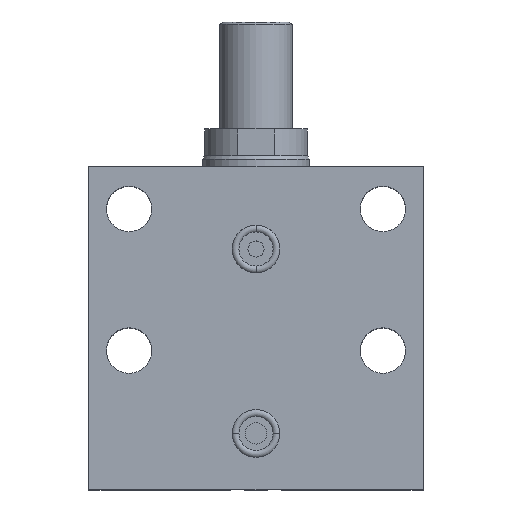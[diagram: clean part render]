
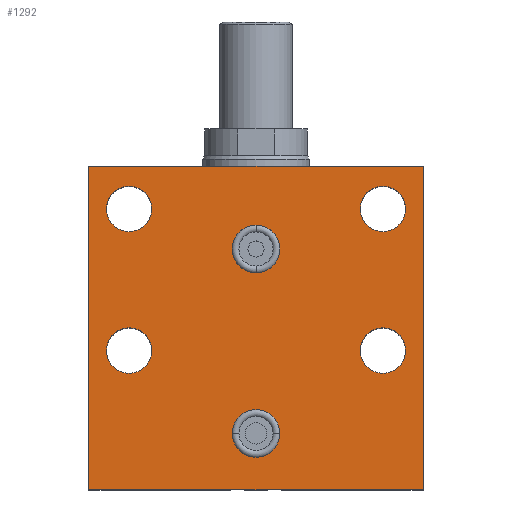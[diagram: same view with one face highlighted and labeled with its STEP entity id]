
A CAD part, top view. The second image highlights one B-rep face of the part: STEP entity #1292.
In plain terms, the highlighted planar face has unit normal (0, 0, 1).
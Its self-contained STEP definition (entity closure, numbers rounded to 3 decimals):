
#1 = AXIS2_PLACEMENT_3D ( 'NONE', #1006, #1020, #1574 ) ;
#2 = EDGE_LOOP ( 'NONE', ( #1472, #1545, #493, #3003 ) ) ;
#52 = CARTESIAN_POINT ( 'NONE',  ( -47.5, 52., 47.5 ) ) ;
#82 = CARTESIAN_POINT ( 'NONE',  ( -39., 105., 47.5 ) ) ;
#92 = EDGE_CURVE ( 'NONE', #2333, #2839, #1449, .T. ) ;
#105 = DIRECTION ( 'NONE',  ( 0., 0., -1. ) ) ;
#116 = VERTEX_POINT ( 'NONE', #928 ) ;
#155 = VERTEX_POINT ( 'NONE', #941 ) ;
#187 = AXIS2_PLACEMENT_3D ( 'NONE', #655, #651, #667 ) ;
#205 = FACE_BOUND ( 'NONE', #2170, .T. ) ;
#268 = CARTESIAN_POINT ( 'NONE',  ( -47.5, 52., 47.5 ) ) ;
#275 = DIRECTION ( 'NONE',  ( 1., 0., 0. ) ) ;
#276 = FACE_BOUND ( 'NONE', #670, .T. ) ;
#284 = DIRECTION ( 'NONE',  ( 0., 0., 1. ) ) ;
#309 = VECTOR ( 'NONE', #1935, 1000. ) ;
#310 = VERTEX_POINT ( 'NONE', #1939 ) ;
#315 = CARTESIAN_POINT ( 'NONE',  ( 56., 52., 47.5 ) ) ;
#321 = CARTESIAN_POINT ( 'NONE',  ( 0., 81.1, 47.5 ) ) ;
#322 = AXIS2_PLACEMENT_3D ( 'NONE', #2028, #2031, #2033 ) ;
#355 = EDGE_CURVE ( 'NONE', #1202, #116, #1482, .T. ) ;
#376 = VECTOR ( 'NONE', #537, 1000. ) ;
#395 = AXIS2_PLACEMENT_3D ( 'NONE', #1556, #1577, #1714 ) ;
#412 = VERTEX_POINT ( 'NONE', #2074 ) ;
#437 = CARTESIAN_POINT ( 'NONE',  ( 56., 105., 47.5 ) ) ;
#452 = LINE ( 'NONE', #1865, #2861 ) ;
#455 = CARTESIAN_POINT ( 'NONE',  ( 8.9, 21., 47.5 ) ) ;
#463 = CARTESIAN_POINT ( 'NONE',  ( 47.5, 105., 47.5 ) ) ;
#466 = DIRECTION ( 'NONE',  ( 0., 0., 1. ) ) ;
#472 = DIRECTION ( 'NONE',  ( 1., 0., 0. ) ) ;
#493 = ORIENTED_EDGE ( 'NONE', *, *, #1536, .F. ) ;
#537 = DIRECTION ( 'NONE',  ( 0., -1., 0. ) ) ;
#548 = VERTEX_POINT ( 'NONE', #2437 ) ;
#551 = CARTESIAN_POINT ( 'NONE',  ( 62.5, 91., 47.5 ) ) ;
#555 = CIRCLE ( 'NONE', #1003, 8.9 ) ;
#560 = VECTOR ( 'NONE', #606, 1000. ) ;
#562 = CIRCLE ( 'NONE', #3019, 8.5 ) ;
#595 = CARTESIAN_POINT ( 'NONE',  ( -62.5, 0., 47.5 ) ) ;
#606 = DIRECTION ( 'NONE',  ( 1., 0., 0. ) ) ;
#619 = DIRECTION ( 'NONE',  ( 1., 0., 0. ) ) ;
#651 = DIRECTION ( 'NONE',  ( 0., 0., 1. ) ) ;
#655 = CARTESIAN_POINT ( 'NONE',  ( -47.5, 105., 47.5 ) ) ;
#667 = DIRECTION ( 'NONE',  ( 1., 0., 0. ) ) ;
#670 = EDGE_LOOP ( 'NONE', ( #1763, #1075 ) ) ;
#673 = CARTESIAN_POINT ( 'NONE',  ( -62.5, 0., 47.5 ) ) ;
#748 = CARTESIAN_POINT ( 'NONE',  ( 47.5, 105., 47.5 ) ) ;
#796 = DIRECTION ( 'NONE',  ( 0., 0., 1. ) ) ;
#818 = FACE_BOUND ( 'NONE', #2350, .T. ) ;
#841 = DIRECTION ( 'NONE',  ( 0., 0., 1. ) ) ;
#855 = CARTESIAN_POINT ( 'NONE',  ( -62.5, 91., 47.5 ) ) ;
#868 = ORIENTED_EDGE ( 'NONE', *, *, #2019, .F. ) ;
#928 = CARTESIAN_POINT ( 'NONE',  ( -8.9, 21., 47.5 ) ) ;
#941 = CARTESIAN_POINT ( 'NONE',  ( 62.5, 121., 47.5 ) ) ;
#943 = VERTEX_POINT ( 'NONE', #2857 ) ;
#965 = PLANE ( 'NONE',  #2148 ) ;
#971 = DIRECTION ( 'NONE',  ( 0., 0., -1. ) ) ;
#980 = DIRECTION ( 'NONE',  ( -1., 0., 0. ) ) ;
#982 = VERTEX_POINT ( 'NONE', #3018 ) ;
#990 = DIRECTION ( 'NONE',  ( -1., 0., 0. ) ) ;
#1000 = AXIS2_PLACEMENT_3D ( 'NONE', #1057, #1004, #1044 ) ;
#1003 = AXIS2_PLACEMENT_3D ( 'NONE', #2609, #2565, #990 ) ;
#1004 = DIRECTION ( 'NONE',  ( 0., 0., 1. ) ) ;
#1006 = CARTESIAN_POINT ( 'NONE',  ( 47.5, 52., 47.5 ) ) ;
#1015 = ORIENTED_EDGE ( 'NONE', *, *, #1197, .F. ) ;
#1020 = DIRECTION ( 'NONE',  ( 0., 0., 1. ) ) ;
#1044 = DIRECTION ( 'NONE',  ( 1., 0., 0. ) ) ;
#1057 = CARTESIAN_POINT ( 'NONE',  ( -47.5, 105., 47.5 ) ) ;
#1060 = AXIS2_PLACEMENT_3D ( 'NONE', #748, #796, #619 ) ;
#1075 = ORIENTED_EDGE ( 'NONE', *, *, #2257, .T. ) ;
#1106 = EDGE_CURVE ( 'NONE', #2441, #548, #1502, .T. ) ;
#1126 = VERTEX_POINT ( 'NONE', #321 ) ;
#1156 = LINE ( 'NONE', #595, #560 ) ;
#1197 = EDGE_CURVE ( 'NONE', #1205, #2741, #562, .T. ) ;
#1202 = VERTEX_POINT ( 'NONE', #455 ) ;
#1205 = VERTEX_POINT ( 'NONE', #437 ) ;
#1271 = VERTEX_POINT ( 'NONE', #673 ) ;
#1292 = ADVANCED_FACE ( 'NONE', ( #1464, #276, #1394, #818, #205, #2580, #1951 ), #965, .F. ) ;
#1394 = FACE_BOUND ( 'NONE', #2128, .T. ) ;
#1427 = CIRCLE ( 'NONE', #2436, 8.5 ) ;
#1438 = CARTESIAN_POINT ( 'NONE',  ( 0., 90., 47.5 ) ) ;
#1440 = DIRECTION ( 'NONE',  ( 0., 0., 1. ) ) ;
#1443 = EDGE_CURVE ( 'NONE', #116, #1202, #2936, .T. ) ;
#1449 = CIRCLE ( 'NONE', #1000, 8.5 ) ;
#1459 = EDGE_CURVE ( 'NONE', #412, #1271, #452, .T. ) ;
#1464 = FACE_BOUND ( 'NONE', #1566, .T. ) ;
#1467 = DIRECTION ( 'NONE',  ( 1., 0., 0. ) ) ;
#1472 = ORIENTED_EDGE ( 'NONE', *, *, #1676, .T. ) ;
#1476 = ORIENTED_EDGE ( 'NONE', *, *, #1106, .F. ) ;
#1482 = CIRCLE ( 'NONE', #322, 8.9 ) ;
#1502 = CIRCLE ( 'NONE', #2207, 8.5 ) ;
#1504 = DIRECTION ( 'NONE',  ( 1., 0., 0. ) ) ;
#1536 = EDGE_CURVE ( 'NONE', #412, #155, #2619, .T. ) ;
#1545 = ORIENTED_EDGE ( 'NONE', *, *, #2630, .F. ) ;
#1556 = CARTESIAN_POINT ( 'NONE',  ( 0., 21., 47.5 ) ) ;
#1562 = CARTESIAN_POINT ( 'NONE',  ( -56., 105., 47.5 ) ) ;
#1566 = EDGE_LOOP ( 'NONE', ( #1640, #2540 ) ) ;
#1574 = DIRECTION ( 'NONE',  ( 1., 0., 0. ) ) ;
#1577 = DIRECTION ( 'NONE',  ( 0., 0., 1. ) ) ;
#1600 = DIRECTION ( 'NONE',  ( 0., -1., 0. ) ) ;
#1639 = AXIS2_PLACEMENT_3D ( 'NONE', #2113, #1440, #1467 ) ;
#1640 = ORIENTED_EDGE ( 'NONE', *, *, #355, .F. ) ;
#1676 = EDGE_CURVE ( 'NONE', #1271, #982, #1156, .T. ) ;
#1698 = EDGE_CURVE ( 'NONE', #2839, #2333, #2975, .T. ) ;
#1714 = DIRECTION ( 'NONE',  ( -1., 0., 0. ) ) ;
#1763 = ORIENTED_EDGE ( 'NONE', *, *, #2200, .T. ) ;
#1791 = CIRCLE ( 'NONE', #1, 8.5 ) ;
#1857 = ORIENTED_EDGE ( 'NONE', *, *, #1698, .F. ) ;
#1865 = CARTESIAN_POINT ( 'NONE',  ( -62.5, 91., 47.5 ) ) ;
#1881 = CARTESIAN_POINT ( 'NONE',  ( -39., 52., 47.5 ) ) ;
#1935 = DIRECTION ( 'NONE',  ( 1., 0., 0. ) ) ;
#1939 = CARTESIAN_POINT ( 'NONE',  ( 39., 52., 47.5 ) ) ;
#1951 = FACE_OUTER_BOUND ( 'NONE', #2, .T. ) ;
#1997 = ORIENTED_EDGE ( 'NONE', *, *, #92, .F. ) ;
#2019 = EDGE_CURVE ( 'NONE', #2741, #1205, #2858, .T. ) ;
#2028 = CARTESIAN_POINT ( 'NONE',  ( 0., 21., 47.5 ) ) ;
#2031 = DIRECTION ( 'NONE',  ( 0., 0., 1. ) ) ;
#2033 = DIRECTION ( 'NONE',  ( -1., 0., 0. ) ) ;
#2059 = EDGE_LOOP ( 'NONE', ( #1476, #2830 ) ) ;
#2070 = CARTESIAN_POINT ( 'NONE',  ( -62.5, 121., 47.5 ) ) ;
#2074 = CARTESIAN_POINT ( 'NONE',  ( -62.5, 121., 47.5 ) ) ;
#2078 = EDGE_CURVE ( 'NONE', #2316, #310, #2210, .T. ) ;
#2091 = DIRECTION ( 'NONE',  ( -1., 0., 0. ) ) ;
#2113 = CARTESIAN_POINT ( 'NONE',  ( 47.5, 52., 47.5 ) ) ;
#2128 = EDGE_LOOP ( 'NONE', ( #1015, #868 ) ) ;
#2146 = EDGE_CURVE ( 'NONE', #548, #2441, #1427, .T. ) ;
#2148 = AXIS2_PLACEMENT_3D ( 'NONE', #855, #971, #980 ) ;
#2170 = EDGE_LOOP ( 'NONE', ( #2292, #2951 ) ) ;
#2200 = EDGE_CURVE ( 'NONE', #943, #1126, #2534, .T. ) ;
#2207 = AXIS2_PLACEMENT_3D ( 'NONE', #268, #284, #275 ) ;
#2210 = CIRCLE ( 'NONE', #1639, 8.5 ) ;
#2257 = EDGE_CURVE ( 'NONE', #1126, #943, #555, .T. ) ;
#2292 = ORIENTED_EDGE ( 'NONE', *, *, #2078, .F. ) ;
#2316 = VERTEX_POINT ( 'NONE', #315 ) ;
#2333 = VERTEX_POINT ( 'NONE', #82 ) ;
#2350 = EDGE_LOOP ( 'NONE', ( #1997, #1857 ) ) ;
#2436 = AXIS2_PLACEMENT_3D ( 'NONE', #52, #841, #1504 ) ;
#2437 = CARTESIAN_POINT ( 'NONE',  ( -56., 52., 47.5 ) ) ;
#2441 = VERTEX_POINT ( 'NONE', #1881 ) ;
#2511 = EDGE_CURVE ( 'NONE', #310, #2316, #1791, .T. ) ;
#2521 = CARTESIAN_POINT ( 'NONE',  ( 39., 105., 47.5 ) ) ;
#2534 = CIRCLE ( 'NONE', #2944, 8.9 ) ;
#2540 = ORIENTED_EDGE ( 'NONE', *, *, #1443, .F. ) ;
#2565 = DIRECTION ( 'NONE',  ( 0., 0., -1. ) ) ;
#2580 = FACE_BOUND ( 'NONE', #2059, .T. ) ;
#2609 = CARTESIAN_POINT ( 'NONE',  ( 0., 90., 47.5 ) ) ;
#2619 = LINE ( 'NONE', #2070, #309 ) ;
#2630 = EDGE_CURVE ( 'NONE', #155, #982, #2759, .T. ) ;
#2741 = VERTEX_POINT ( 'NONE', #2521 ) ;
#2759 = LINE ( 'NONE', #551, #376 ) ;
#2830 = ORIENTED_EDGE ( 'NONE', *, *, #2146, .F. ) ;
#2839 = VERTEX_POINT ( 'NONE', #1562 ) ;
#2857 = CARTESIAN_POINT ( 'NONE',  ( 0., 98.9, 47.5 ) ) ;
#2858 = CIRCLE ( 'NONE', #1060, 8.5 ) ;
#2861 = VECTOR ( 'NONE', #1600, 1000. ) ;
#2936 = CIRCLE ( 'NONE', #395, 8.9 ) ;
#2944 = AXIS2_PLACEMENT_3D ( 'NONE', #1438, #105, #2091 ) ;
#2951 = ORIENTED_EDGE ( 'NONE', *, *, #2511, .F. ) ;
#2975 = CIRCLE ( 'NONE', #187, 8.5 ) ;
#3003 = ORIENTED_EDGE ( 'NONE', *, *, #1459, .T. ) ;
#3018 = CARTESIAN_POINT ( 'NONE',  ( 62.5, 0., 47.5 ) ) ;
#3019 = AXIS2_PLACEMENT_3D ( 'NONE', #463, #466, #472 ) ;
